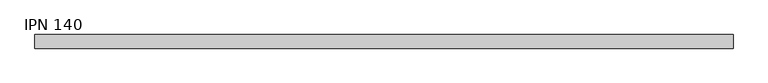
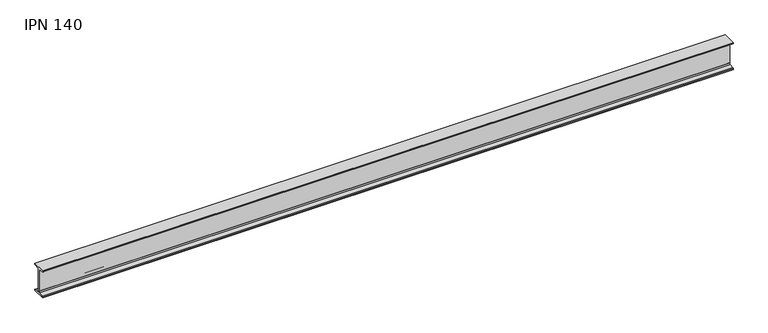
"""IFC4 building model written with IfcOpenShell, lengths in millimetres: beam geometry, IPN - Secciones en I con alas cónicas : IPN 140."""

from ifc_helpers import new_model, si_unit, point, frame, frame_2d, origin, place, context, project, spatial, polyline, circle_curve, trimmed, segment, composite_curve, outline, extrude, source, transform, mapped, element, save


def ipn_140_393f5682(model_context):
    return source(origin(), model_context, "Body", "SweptSolid", [
        extrude(outline(composite_curve([segment(polyline([(33.0, 70.0), (33.0, 66.6671583)]), True, "CONTINUOUS"), segment(trimmed(circle_curve(frame_2d((29.6, 66.6671583)), 3.4), [point((33.0, 66.6671583))], [point((30.0714027, 63.2999964))], False, "CARTESIAN"), True, "CONTINUOUS"), segment(polyline([(30.0714027, 63.2999964), (7.7597073, 60.176359)]), True, "CONTINUOUS"), segment(trimmed(circle_curve(frame_2d((8.55, 54.5314111)), 5.7), [point((7.7597073, 60.176359))], [point((2.85, 54.5314111))], True, "CARTESIAN"), True, "CONTINUOUS"), segment(polyline([(2.85, 54.5314111), (2.85, -54.5314111)]), True, "CONTINUOUS"), segment(trimmed(circle_curve(frame_2d((8.55, -54.5314111)), 5.7), [point((2.85, -54.5314111))], [point((7.7597073, -60.176359))], True, "CARTESIAN"), True, "CONTINUOUS"), segment(polyline([(7.7597073, -60.176359), (30.0714027, -63.2999964)]), True, "CONTINUOUS"), segment(trimmed(circle_curve(frame_2d((29.6, -66.6671583)), 3.4), [point((30.0714027, -63.2999964))], [point((33.0, -66.6671583))], False, "CARTESIAN"), True, "CONTINUOUS"), segment(polyline([(33.0, -66.6671583), (33.0, -70.0), (-33.0, -70.0), (-33.0, -66.6671583)]), True, "CONTINUOUS"), segment(trimmed(circle_curve(frame_2d((-29.6, -66.6671583)), 3.4), [point((-33.0, -66.6671583))], [point((-30.0714027, -63.2999964))], False, "CARTESIAN"), True, "CONTINUOUS"), segment(polyline([(-30.0714027, -63.2999964), (-7.7597073, -60.176359)]), True, "CONTINUOUS"), segment(trimmed(circle_curve(frame_2d((-8.55, -54.5314111)), 5.7), [point((-7.7597073, -60.176359))], [point((-2.85, -54.5314111))], True, "CARTESIAN"), True, "CONTINUOUS"), segment(polyline([(-2.85, -54.5314111), (-2.85, 54.5314111)]), True, "CONTINUOUS"), segment(trimmed(circle_curve(frame_2d((-8.55, 54.5314111)), 5.7), [point((-2.85, 54.5314111))], [point((-7.7597073, 60.176359))], True, "CARTESIAN"), True, "CONTINUOUS"), segment(polyline([(-7.7597073, 60.176359), (-30.0714027, 63.2999964)]), True, "CONTINUOUS"), segment(trimmed(circle_curve(frame_2d((-29.6, 66.6671583)), 3.4), [point((-30.0714027, 63.2999964))], [point((-33.0, 66.6671583))], False, "CARTESIAN"), True, "CONTINUOUS"), segment(polyline([(-33.0, 66.6671583), (-33.0, 70.0), (33.0, 70.0)]), True, "CONTINUOUS")], self_intersect=False)), frame((-1695.0, 0.0, 0.0), z_axis=(1.0, 0.0, 0.0), x_axis=(0.0, 1.0, 0.0)), (0.0, 0.0, 1.0), 3390.0),
    ])


if __name__ == "__main__":
    model = new_model("IFC4")
    model_context = context("Model", 3, world=origin())
    ifc_project = project(units=[si_unit("LENGTHUNIT", "METRE", prefix="MILLI")], contexts=[model_context])
    site = spatial("IfcSite", under=ifc_project)
    building = spatial("IfcBuilding", under=site)
    placement = place(None, origin())
    ipn_140_shape = ipn_140_393f5682(model_context)
    element("IfcBeam", 1, ObjectType="IPN - Secciones en I con alas cónicas : IPN 140", at=placement, inside=building, context=model_context, shape_type="MappedRepresentation", body=[
        mapped(ipn_140_shape, transform((0.0, 0.0, 0.0), x_axis=(1.0, 0.0, 0.0), y_axis=(0.0, 1.0, 0.0), z_axis=(0.0, 0.0, 1.0))),
    ])
    save(model, "model.ifc")
